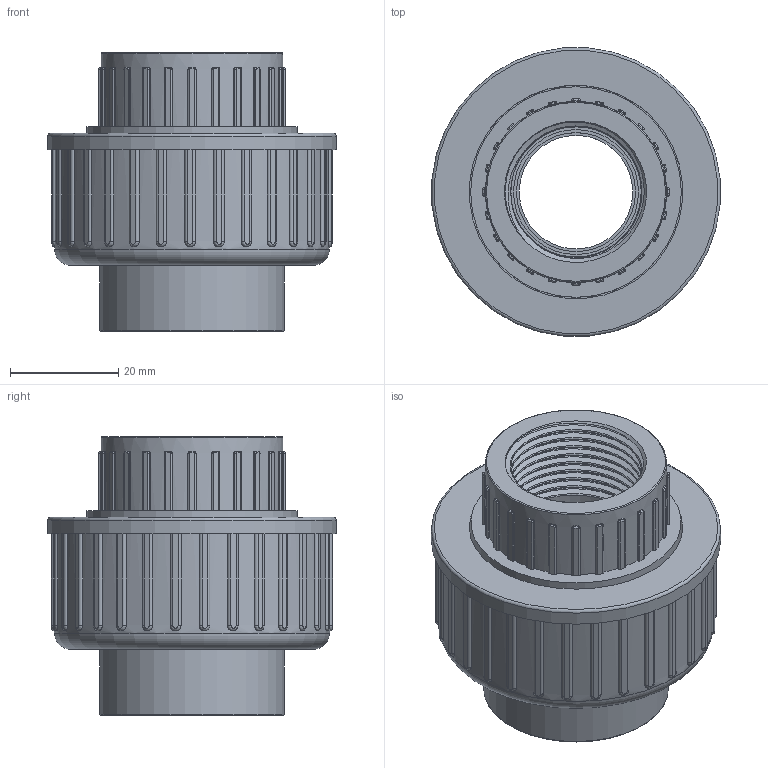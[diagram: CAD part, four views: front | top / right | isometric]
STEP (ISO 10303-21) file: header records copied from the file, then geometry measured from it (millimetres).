
FILE_DESCRIPTION(/* description */ (''),/* implementation_level */ '2;1');
FILE_NAME(/* name */ 'C:\Users\POLYPIPE\Desktop\DATASET INVENTOR\LIBRERIA EFFAST\3D_RACCORDI\RER\3D_RERBOE\3D_RERBOE025C.stp',/* time_stamp */ '2018-01-22T15:56:19+01:00',/* author */ ('POLYPIPE'),/* organization */ (''),/* preprocessor_version */ 'ST-DEVELOPER v16.1',/* originating_system */ 'Autodesk Inventor 2016',/* authorisation */ '');
FILE_SCHEMA (('CONFIG_CONTROL_DESIGN'));
Length unit declared in the file: centimetre
Products named in the file (1): 3D_RERBOE
Bounding box: 53.31 x 53.31 x 51.5 mm (x, y, z)
Volume: 50310 mm3; surface area: 22291.3 mm2
Topology: 1 solids, 1 shells, 428 faces, 1143 edges, 728 vertices
Faces by surface type: cylinder 193, plane 141, bspline 88, torus 4, cone 2
Full cylindrical faces by diameter (mm): 21 x1, 22 x1, 23.117 x1, 24.117 x2, 33.5 x1, 34.2 x1, 36.4 x1, 38.7 x1, 38.952 x1, 39.5 x1, 51 x1, 53.5 x1
Entity records: 21515 total; most frequent: CARTESIAN_POINT 10592, ORIENTED_EDGE 2240, DIRECTION 2202, EDGE_CURVE 1120, AXIS2_PLACEMENT_3D 843, VERTEX_POINT 723, LINE 516, VECTOR 516
